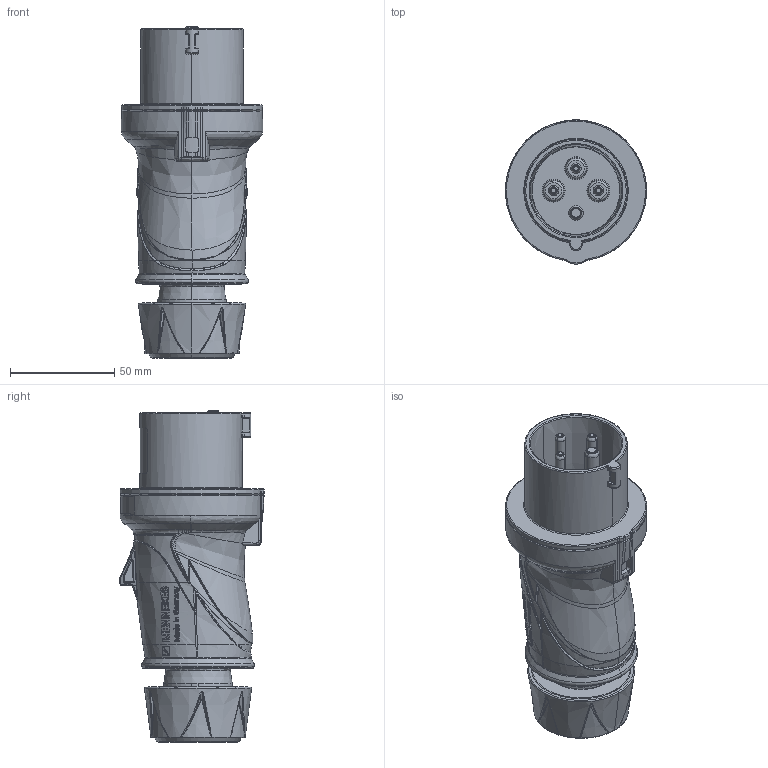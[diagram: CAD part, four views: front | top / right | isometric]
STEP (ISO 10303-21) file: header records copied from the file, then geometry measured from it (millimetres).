
FILE_DESCRIPTION((''),'2;1');
FILE_NAME('1132226_ASM_SW0001','2021-07-07T11:45:30',('schlabachr'),('MENNEKES'),'CREO PARAMETRIC BY PTC INC, 2019080','CREO PARAMETRIC BY PTC INC, 2019080','');
FILE_SCHEMA(('AUTOMOTIVE_DESIGN { 1 0 10303 214 1 1 1 1 }'));
Products named in the file (1): 1132226_ASM_SW0001
Bounding box: 67.75 x 69.2 x 159.3 mm (x, y, z)
Volume: 280919.6 mm3; surface area: 43574.5 mm2
Topology: 1 solids, 1 shells, 1545 faces, 3875 edges, 2404 vertices
Faces by surface type: bspline 1054, extrusion 196, cylinder 88, plane 82, torus 80, cone 39, sphere 6
Entity records: 104293 total; most frequent: CARTESIAN_POINT 64009, ORIENTED_EDGE 7750, EDGE_CURVE 3875, B_SPLINE_CURVE_WITH_KNOTS 2977, DIRECTION 2592, VERTEX_POINT 2404, PRESENTATION_STYLE_ASSIGNMENT 1740, STYLED_ITEM 1740
